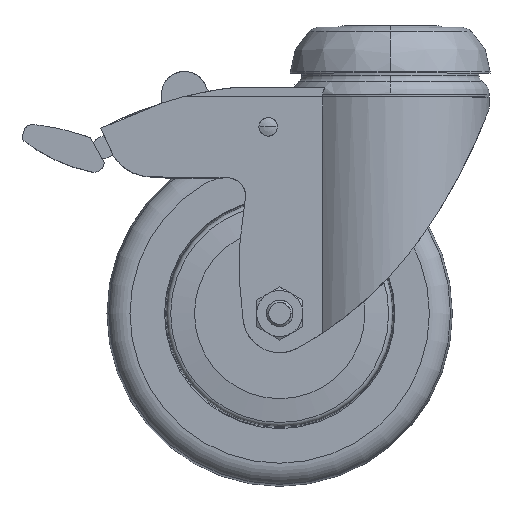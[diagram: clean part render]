
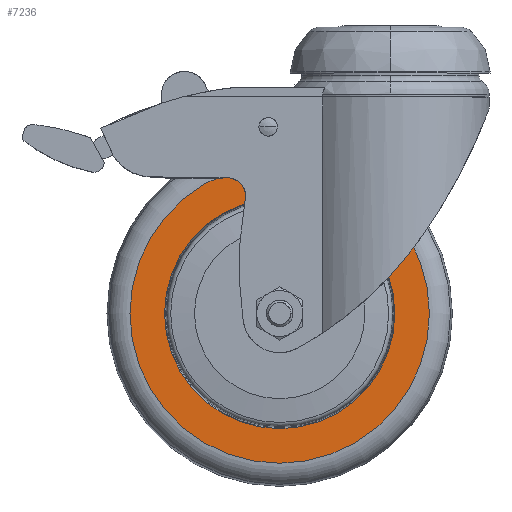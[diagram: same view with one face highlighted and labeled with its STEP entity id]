
A CAD part, top view. The second image highlights one B-rep face of the part: STEP entity #7236.
In plain terms, the highlighted planar face has unit normal (0, 0, 1).
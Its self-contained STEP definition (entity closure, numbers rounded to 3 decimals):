
#501=FACE_BOUND('',#2541,.T.);
#536=PLANE('',#7615);
#2258=FACE_OUTER_BOUND('',#2540,.T.);
#2540=EDGE_LOOP('',(#5992,#5993));
#2541=EDGE_LOOP('',(#5994,#5995));
#2804=CIRCLE('',#7499,32.5);
#2806=CIRCLE('',#7501,32.5);
#2839=CIRCLE('',#7543,25.);
#2840=CIRCLE('',#7544,25.);
#3278=VERTEX_POINT('',#10239);
#3279=VERTEX_POINT('',#10240);
#3310=VERTEX_POINT('',#11214);
#3311=VERTEX_POINT('',#11215);
#4514=EDGE_CURVE('',#3278,#3279,#2804,.T.);
#4516=EDGE_CURVE('',#3279,#3278,#2806,.T.);
#4556=EDGE_CURVE('',#3310,#3311,#2839,.T.);
#4557=EDGE_CURVE('',#3311,#3310,#2840,.T.);
#5992=ORIENTED_EDGE('',*,*,#4514,.F.);
#5993=ORIENTED_EDGE('',*,*,#4516,.F.);
#5994=ORIENTED_EDGE('',*,*,#4556,.T.);
#5995=ORIENTED_EDGE('',*,*,#4557,.T.);
#7236=ADVANCED_FACE('',(#2258,#501),#536,.T.);
#7499=AXIS2_PLACEMENT_3D('',#10241,#8269,#8270);
#7501=AXIS2_PLACEMENT_3D('',#10243,#8273,#8274);
#7543=AXIS2_PLACEMENT_3D('',#11216,#8358,#8359);
#7544=AXIS2_PLACEMENT_3D('',#11217,#8360,#8361);
#7615=AXIS2_PLACEMENT_3D('',#11363,#8519,#8520);
#8269=DIRECTION('center_axis',(0.,0.,-1.));
#8270=DIRECTION('ref_axis',(-1.,0.,0.));
#8273=DIRECTION('center_axis',(0.,0.,-1.));
#8274=DIRECTION('ref_axis',(-1.,0.,0.));
#8358=DIRECTION('center_axis',(0.,0.,-1.));
#8359=DIRECTION('ref_axis',(-1.,0.,0.));
#8360=DIRECTION('center_axis',(0.,0.,-1.));
#8361=DIRECTION('ref_axis',(-1.,0.,0.));
#8519=DIRECTION('center_axis',(0.,0.,1.));
#8520=DIRECTION('ref_axis',(1.,0.,0.));
#10239=CARTESIAN_POINT('',(-24.,-30.,12.5));
#10240=CARTESIAN_POINT('',(-56.5,-62.5,12.5));
#10241=CARTESIAN_POINT('Origin',(-24.,-62.5,12.5));
#10243=CARTESIAN_POINT('Origin',(-24.,-62.5,12.5));
#11214=CARTESIAN_POINT('',(-49.,-62.5,12.5));
#11215=CARTESIAN_POINT('',(1.,-62.5,12.5));
#11216=CARTESIAN_POINT('Origin',(-24.,-62.5,12.5));
#11217=CARTESIAN_POINT('Origin',(-24.,-62.5,12.5));
#11363=CARTESIAN_POINT('Origin',(-24.,-33.75,12.5));
